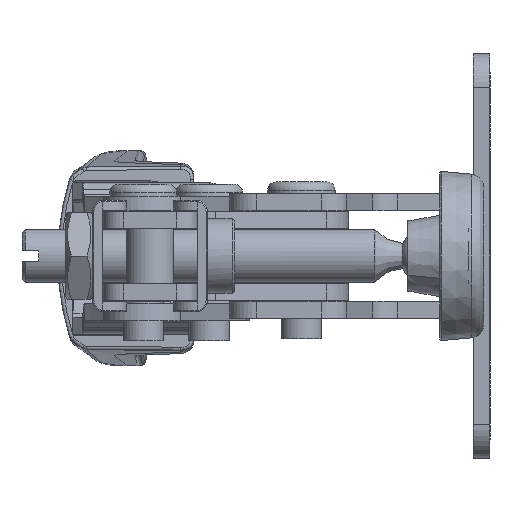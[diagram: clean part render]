
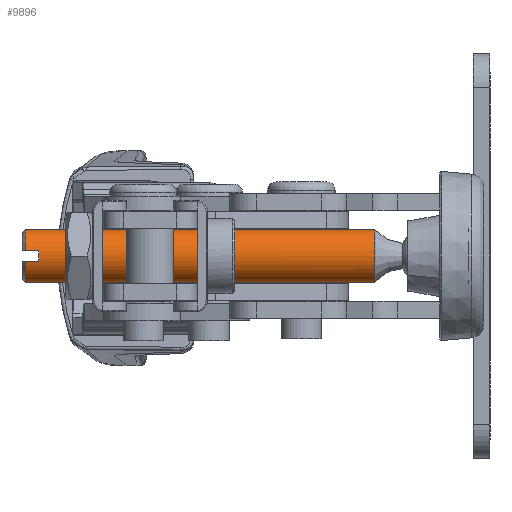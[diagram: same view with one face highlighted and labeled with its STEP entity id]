
A CAD part, left-side view. The second image highlights one B-rep face of the part: STEP entity #9896.
In plain terms, the highlighted cylindrical face has radius 4 mm (diameter 8 mm), a full revolution.
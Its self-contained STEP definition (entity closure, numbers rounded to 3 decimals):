
#9778=CARTESIAN_POINT('',(-79.072,17.143,-4.));
#9779=VERTEX_POINT('',#9778);
#9793=CARTESIAN_POINT('',(-79.072,17.143,0.));
#9794=DIRECTION('',(0.,0.,-1.));
#9795=DIRECTION('',(0.,-1.,0.));
#9796=AXIS2_PLACEMENT_3D('',#9793,#9795,#9794);
#9797=CIRCLE('',#9796,4.);
#9798=EDGE_CURVE('',#9779,#9779,#9797,.T.);
#9804=CARTESIAN_POINT('',(-79.072,17.143,0.));
#9805=DIRECTION('',(0.,0.,-1.));
#9806=DIRECTION('',(0.,1.,0.));
#9807=AXIS2_PLACEMENT_3D('',#9804,#9806,#9805);
#9808=CYLINDRICAL_SURFACE('',#9807,4.);
#9809=CARTESIAN_POINT('',(-75.152,68.976,-0.8));
#9810=VERTEX_POINT('',#9809);
#9811=CARTESIAN_POINT('',(-75.152,66.976,-0.8));
#9812=VERTEX_POINT('',#9811);
#9813=CARTESIAN_POINT('',(-75.152,68.976,-0.8));
#9814=DIRECTION('',(0.,-1.,0.));
#9815=VECTOR('',#9814,2.);
#9816=LINE('',#9813,#9815);
#9817=EDGE_CURVE('',#9810,#9812,#9816,.T.);
#9818=ORIENTED_EDGE('',*,*,#9817,.T.);
#9819=CARTESIAN_POINT('',(-75.152,66.976,0.8));
#9820=VERTEX_POINT('',#9819);
#9821=CARTESIAN_POINT('',(-79.072,66.976,0.));
#9822=DIRECTION('',(0.98,0.,-0.2));
#9823=DIRECTION('',(0.,-1.,0.));
#9824=AXIS2_PLACEMENT_3D('',#9821,#9823,#9822);
#9825=CIRCLE('',#9824,4.);
#9826=EDGE_CURVE('',#9812,#9820,#9825,.T.);
#9827=ORIENTED_EDGE('',*,*,#9826,.T.);
#9828=CARTESIAN_POINT('',(-75.152,68.976,0.8));
#9829=VERTEX_POINT('',#9828);
#9830=CARTESIAN_POINT('',(-75.152,66.976,0.8));
#9831=DIRECTION('',(0.,1.,0.));
#9832=VECTOR('',#9831,2.);
#9833=LINE('',#9830,#9832);
#9834=EDGE_CURVE('',#9820,#9829,#9833,.T.);
#9835=ORIENTED_EDGE('',*,*,#9834,.T.);
#9836=CARTESIAN_POINT('',(-82.991,68.976,0.8));
#9837=VERTEX_POINT('',#9836);
#9838=CARTESIAN_POINT('',(-79.072,68.976,0.));
#9839=DIRECTION('',(0.98,0.,0.2));
#9840=DIRECTION('',(0.,-1.,0.));
#9841=AXIS2_PLACEMENT_3D('',#9838,#9840,#9839);
#9842=CIRCLE('',#9841,4.);
#9843=EDGE_CURVE('',#9829,#9837,#9842,.T.);
#9844=ORIENTED_EDGE('',*,*,#9843,.T.);
#9845=CARTESIAN_POINT('',(-82.991,66.976,0.8));
#9846=VERTEX_POINT('',#9845);
#9847=CARTESIAN_POINT('',(-82.991,68.976,0.8));
#9848=DIRECTION('',(0.,-1.,0.));
#9849=VECTOR('',#9848,2.);
#9850=LINE('',#9847,#9849);
#9851=EDGE_CURVE('',#9837,#9846,#9850,.T.);
#9852=ORIENTED_EDGE('',*,*,#9851,.T.);
#9853=CARTESIAN_POINT('',(-82.991,66.976,-0.8));
#9854=VERTEX_POINT('',#9853);
#9855=CARTESIAN_POINT('',(-79.072,66.976,0.));
#9856=DIRECTION('',(-0.98,0.,0.2));
#9857=DIRECTION('',(0.,-1.,0.));
#9858=AXIS2_PLACEMENT_3D('',#9855,#9857,#9856);
#9859=CIRCLE('',#9858,4.);
#9860=EDGE_CURVE('',#9846,#9854,#9859,.T.);
#9861=ORIENTED_EDGE('',*,*,#9860,.T.);
#9862=CARTESIAN_POINT('',(-82.991,68.976,-0.8));
#9863=VERTEX_POINT('',#9862);
#9864=CARTESIAN_POINT('',(-82.991,66.976,-0.8));
#9865=DIRECTION('',(0.,1.,0.));
#9866=VECTOR('',#9865,2.);
#9867=LINE('',#9864,#9866);
#9868=EDGE_CURVE('',#9854,#9863,#9867,.T.);
#9869=ORIENTED_EDGE('',*,*,#9868,.T.);
#9870=CARTESIAN_POINT('',(-79.072,68.976,-4.));
#9871=VERTEX_POINT('',#9870);
#9872=CARTESIAN_POINT('',(-79.072,68.976,0.));
#9873=DIRECTION('',(-0.98,0.,-0.2));
#9874=DIRECTION('',(0.,-1.,0.));
#9875=AXIS2_PLACEMENT_3D('',#9872,#9874,#9873);
#9876=CIRCLE('',#9875,4.);
#9877=EDGE_CURVE('',#9863,#9871,#9876,.T.);
#9878=ORIENTED_EDGE('',*,*,#9877,.T.);
#9879=CARTESIAN_POINT('',(-79.072,68.976,-4.));
#9880=DIRECTION('',(0.,-1.,0.));
#9881=VECTOR('',#9880,51.833);
#9882=LINE('',#9879,#9881);
#9883=EDGE_CURVE('',#9871,#9779,#9882,.T.);
#9884=ORIENTED_EDGE('',*,*,#9883,.T.);
#9885=ORIENTED_EDGE('',*,*,#9798,.F.);
#9886=ORIENTED_EDGE('',*,*,#9883,.F.);
#9887=CARTESIAN_POINT('',(-79.072,68.976,0.));
#9888=DIRECTION('',(0.,0.,-1.));
#9889=DIRECTION('',(0.,-1.,0.));
#9890=AXIS2_PLACEMENT_3D('',#9887,#9889,#9888);
#9891=CIRCLE('',#9890,4.);
#9892=EDGE_CURVE('',#9871,#9810,#9891,.T.);
#9893=ORIENTED_EDGE('',*,*,#9892,.T.);
#9894=EDGE_LOOP('',(#9818,#9827,#9835,#9844,#9852,#9861,#9869,#9878,#9884,#9885,#9886,#9893));
#9895=FACE_OUTER_BOUND('',#9894,.T.);
#9896=ADVANCED_FACE('',(#9895),#9808,.T.);
